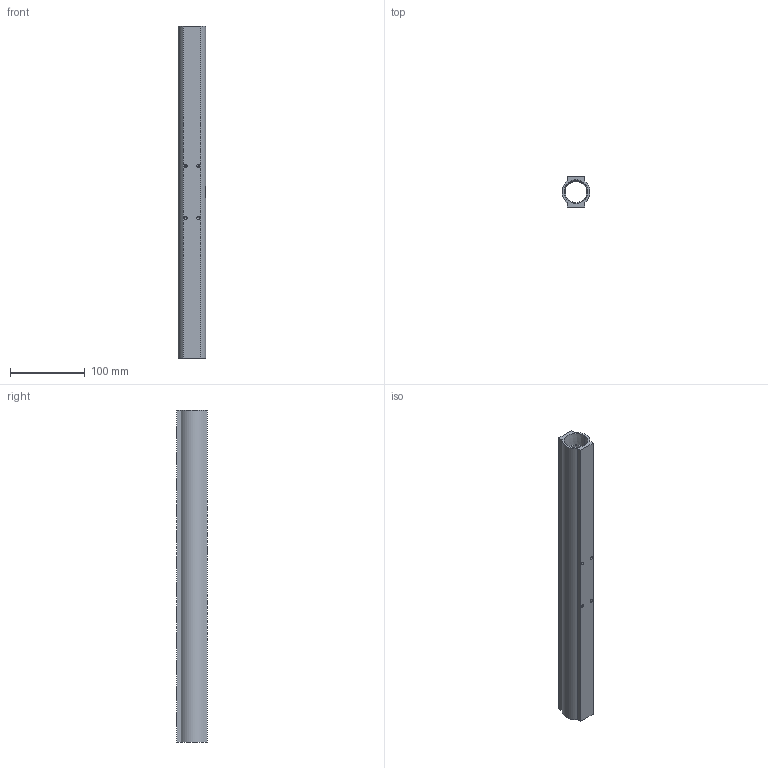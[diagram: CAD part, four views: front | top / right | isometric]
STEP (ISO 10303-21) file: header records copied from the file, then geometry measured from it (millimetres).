
FILE_DESCRIPTION (( 'STEP AP214' ), '1' );
FILE_NAME ('BWM12616R.STEP', '2022-03-15T05:23:54', ( '' ), ( '' ), 'SwSTEP 2.0', 'SolidWorks 2020', '' );
FILE_SCHEMA (( 'AUTOMOTIVE_DESIGN' ));
Length unit declared in the file: millimetre
Products named in the file (1): BWM12616R
Bounding box: 37.44 x 41 x 445 mm (x, y, z)
Volume: 245068.8 mm3; surface area: 103101.2 mm2
Topology: 1 solids, 1 shells, 226 faces, 610 edges, 400 vertices
Faces by surface type: plane 107, bspline 42, cylinder 41, cone 36
Entity records: 12699 total; most frequent: CARTESIAN_POINT 5411, ORIENTED_EDGE 1204, DIRECTION 834, EDGE_CURVE 602, VERTEX_POINT 400, VECTOR 300, LINE 300, EDGE_LOOP 274
